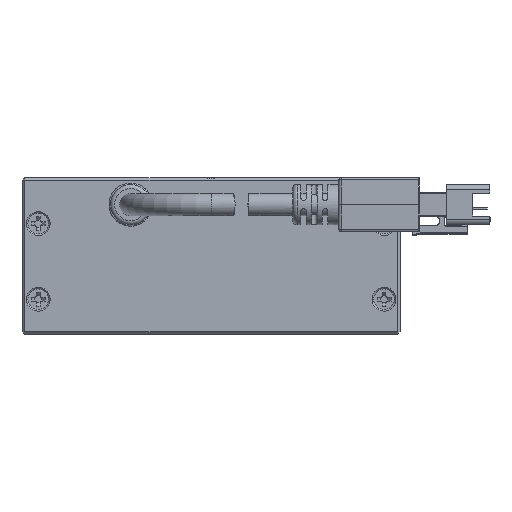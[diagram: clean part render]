
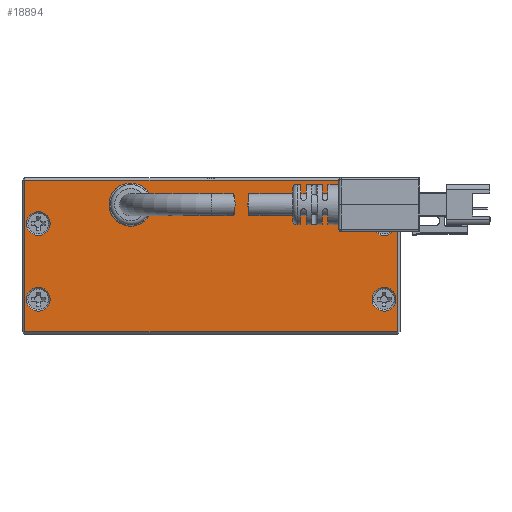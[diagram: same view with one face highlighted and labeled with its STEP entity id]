
A CAD part, front view. The second image highlights one B-rep face of the part: STEP entity #18894.
In plain terms, the highlighted planar face has unit normal (0, -1, 0).
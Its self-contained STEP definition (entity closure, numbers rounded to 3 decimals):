
#19 = DIRECTION ( 'NONE',  ( 0., -1., 0. ) ) ;
#393 = EDGE_CURVE ( 'NONE', #18391, #18391, #14986, .T. ) ;
#660 = LINE ( 'NONE', #3709, #18897 ) ;
#993 = VERTEX_POINT ( 'NONE', #5593 ) ;
#1087 = VECTOR ( 'NONE', #7385, 1000. ) ;
#1108 = VECTOR ( 'NONE', #11607, 1000. ) ;
#1175 = CIRCLE ( 'NONE', #17084, 2.8 ) ;
#1466 = FACE_BOUND ( 'NONE', #15692, .T. ) ;
#1664 = DIRECTION ( 'NONE',  ( -1., 0., 0. ) ) ;
#2200 = DIRECTION ( 'NONE',  ( 0., 0., -1. ) ) ;
#2310 = DIRECTION ( 'NONE',  ( 0., -1., 0. ) ) ;
#2739 = CARTESIAN_POINT ( 'NONE',  ( 29.8, -35., -6.5 ) ) ;
#2746 = ORIENTED_EDGE ( 'NONE', *, *, #17095, .T. ) ;
#3050 = ORIENTED_EDGE ( 'NONE', *, *, #15357, .T. ) ;
#3709 = CARTESIAN_POINT ( 'NONE',  ( -12.1, -35., -3. ) ) ;
#4143 = DIRECTION ( 'NONE',  ( -1., 0., 0. ) ) ;
#4170 = CARTESIAN_POINT ( 'NONE',  ( -12.1, -35., -3. ) ) ;
#4605 = ORIENTED_EDGE ( 'NONE', *, *, #9221, .F. ) ;
#4716 = FACE_OUTER_BOUND ( 'NONE', #19585, .T. ) ;
#4731 = AXIS2_PLACEMENT_3D ( 'NONE', #15383, #5931, #20298 ) ;
#5067 = AXIS2_PLACEMENT_3D ( 'NONE', #11191, #19, #1664 ) ;
#5593 = CARTESIAN_POINT ( 'NONE',  ( -34.5, -35., -26.5 ) ) ;
#5931 = DIRECTION ( 'NONE',  ( 0., -1., 0. ) ) ;
#6096 = DIRECTION ( 'NONE',  ( 0., 0., 1. ) ) ;
#6525 = DIRECTION ( 'NONE',  ( 1., 0., 0. ) ) ;
#6561 = CARTESIAN_POINT ( 'NONE',  ( -17.7, -35., -3. ) ) ;
#6654 = LINE ( 'NONE', #13830, #12823 ) ;
#6975 = AXIS2_PLACEMENT_3D ( 'NONE', #7039, #13385, #19476 ) ;
#7039 = CARTESIAN_POINT ( 'NONE',  ( 32., -35., -6.5 ) ) ;
#7069 = AXIS2_PLACEMENT_3D ( 'NONE', #18767, #20159, #18635 ) ;
#7144 = LINE ( 'NONE', #10280, #20168 ) ;
#7316 = VECTOR ( 'NONE', #2200, 1000. ) ;
#7385 = DIRECTION ( 'NONE',  ( 0., 0., 1. ) ) ;
#7595 = EDGE_LOOP ( 'NONE', ( #3050, #2746, #4605, #15796 ) ) ;
#8993 = VERTEX_POINT ( 'NONE', #18511 ) ;
#9074 = AXIS2_PLACEMENT_3D ( 'NONE', #10930, #10788, #14218 ) ;
#9167 = VERTEX_POINT ( 'NONE', #6561 ) ;
#9203 = EDGE_CURVE ( 'NONE', #12260, #12260, #19901, .T. ) ;
#9221 = EDGE_CURVE ( 'NONE', #10126, #17966, #660, .T. ) ;
#9678 = CIRCLE ( 'NONE', #4731, 2.2 ) ;
#9926 = ORIENTED_EDGE ( 'NONE', *, *, #12212, .F. ) ;
#10047 = DIRECTION ( 'NONE',  ( 0., 0., 1. ) ) ;
#10126 = VERTEX_POINT ( 'NONE', #4170 ) ;
#10280 = CARTESIAN_POINT ( 'NONE',  ( -35., -35., 0. ) ) ;
#10300 = LINE ( 'NONE', #13099, #1108 ) ;
#10377 = ORIENTED_EDGE ( 'NONE', *, *, #9203, .F. ) ;
#10460 = EDGE_LOOP ( 'NONE', ( #10377 ) ) ;
#10581 = PLANE ( 'NONE',  #7069 ) ;
#10631 = EDGE_CURVE ( 'NONE', #14206, #993, #14213, .T. ) ;
#10693 = FACE_BOUND ( 'NONE', #7595, .T. ) ;
#10788 = DIRECTION ( 'NONE',  ( 0., -1., 0. ) ) ;
#10930 = CARTESIAN_POINT ( 'NONE',  ( 32., -35., -20.5 ) ) ;
#10965 = ORIENTED_EDGE ( 'NONE', *, *, #393, .F. ) ;
#11082 = EDGE_CURVE ( 'NONE', #18855, #18855, #14475, .T. ) ;
#11191 = CARTESIAN_POINT ( 'NONE',  ( -32., -35., -6.5 ) ) ;
#11607 = DIRECTION ( 'NONE',  ( 1., 0., 0. ) ) ;
#11931 = ORIENTED_EDGE ( 'NONE', *, *, #11082, .F. ) ;
#12212 = EDGE_CURVE ( 'NONE', #13245, #13245, #9678, .T. ) ;
#12260 = VERTEX_POINT ( 'NONE', #2739 ) ;
#12507 = ORIENTED_EDGE ( 'NONE', *, *, #20291, .T. ) ;
#12823 = VECTOR ( 'NONE', #6096, 1000. ) ;
#12909 = CARTESIAN_POINT ( 'NONE',  ( -12.1, -35., 0. ) ) ;
#13099 = CARTESIAN_POINT ( 'NONE',  ( -35., -35., -26.5 ) ) ;
#13245 = VERTEX_POINT ( 'NONE', #18827 ) ;
#13268 = EDGE_LOOP ( 'NONE', ( #11931 ) ) ;
#13385 = DIRECTION ( 'NONE',  ( 0., -1., 0. ) ) ;
#13399 = CARTESIAN_POINT ( 'NONE',  ( -34.2, -35., -6.5 ) ) ;
#13830 = CARTESIAN_POINT ( 'NONE',  ( 34.5, -35., 0. ) ) ;
#14206 = VERTEX_POINT ( 'NONE', #16107 ) ;
#14213 = LINE ( 'NONE', #15334, #7316 ) ;
#14218 = DIRECTION ( 'NONE',  ( -1., 0., 0. ) ) ;
#14452 = ORIENTED_EDGE ( 'NONE', *, *, #17181, .T. ) ;
#14475 = CIRCLE ( 'NONE', #9074, 2.2 ) ;
#14509 = LINE ( 'NONE', #18247, #15239 ) ;
#14986 = CIRCLE ( 'NONE', #5067, 2.2 ) ;
#15239 = VECTOR ( 'NONE', #4143, 1000. ) ;
#15334 = CARTESIAN_POINT ( 'NONE',  ( -34.5, -35., 0. ) ) ;
#15357 = EDGE_CURVE ( 'NONE', #9167, #8993, #16209, .T. ) ;
#15383 = CARTESIAN_POINT ( 'NONE',  ( -32., -35., -20.5 ) ) ;
#15692 = EDGE_LOOP ( 'NONE', ( #9926 ) ) ;
#15796 = ORIENTED_EDGE ( 'NONE', *, *, #19683, .F. ) ;
#16107 = CARTESIAN_POINT ( 'NONE',  ( -34.5, -35., 1.5 ) ) ;
#16209 = LINE ( 'NONE', #16798, #1087 ) ;
#16425 = EDGE_CURVE ( 'NONE', #993, #18976, #10300, .T. ) ;
#16478 = DIRECTION ( 'NONE',  ( -1., 0., 0. ) ) ;
#16798 = CARTESIAN_POINT ( 'NONE',  ( -17.7, -35., 0. ) ) ;
#16799 = FACE_BOUND ( 'NONE', #10460, .T. ) ;
#17084 = AXIS2_PLACEMENT_3D ( 'NONE', #18035, #2310, #16478 ) ;
#17095 = EDGE_CURVE ( 'NONE', #8993, #17966, #7144, .T. ) ;
#17181 = EDGE_CURVE ( 'NONE', #18976, #19549, #6654, .T. ) ;
#17904 = CARTESIAN_POINT ( 'NONE',  ( 34.5, -35., 1.5 ) ) ;
#17966 = VERTEX_POINT ( 'NONE', #12909 ) ;
#18035 = CARTESIAN_POINT ( 'NONE',  ( -14.9, -35., -3. ) ) ;
#18247 = CARTESIAN_POINT ( 'NONE',  ( -35., -35., 1.5 ) ) ;
#18263 = ORIENTED_EDGE ( 'NONE', *, *, #10631, .T. ) ;
#18391 = VERTEX_POINT ( 'NONE', #13399 ) ;
#18511 = CARTESIAN_POINT ( 'NONE',  ( -17.7, -35., 0. ) ) ;
#18635 = DIRECTION ( 'NONE',  ( 1., 0., 0. ) ) ;
#18740 = EDGE_LOOP ( 'NONE', ( #10965 ) ) ;
#18767 = CARTESIAN_POINT ( 'NONE',  ( -35., -35., 0. ) ) ;
#18825 = CARTESIAN_POINT ( 'NONE',  ( 34.5, -35., -26.5 ) ) ;
#18827 = CARTESIAN_POINT ( 'NONE',  ( -34.2, -35., -20.5 ) ) ;
#18855 = VERTEX_POINT ( 'NONE', #20094 ) ;
#18894 = ADVANCED_FACE ( 'NONE', ( #10693, #19246, #16799, #19490, #1466, #4716 ), #10581, .F. ) ;
#18897 = VECTOR ( 'NONE', #10047, 1000. ) ;
#18976 = VERTEX_POINT ( 'NONE', #18825 ) ;
#19246 = FACE_BOUND ( 'NONE', #13268, .T. ) ;
#19279 = ORIENTED_EDGE ( 'NONE', *, *, #16425, .T. ) ;
#19476 = DIRECTION ( 'NONE',  ( -1., 0., 0. ) ) ;
#19490 = FACE_BOUND ( 'NONE', #18740, .T. ) ;
#19549 = VERTEX_POINT ( 'NONE', #17904 ) ;
#19585 = EDGE_LOOP ( 'NONE', ( #12507, #18263, #19279, #14452 ) ) ;
#19683 = EDGE_CURVE ( 'NONE', #9167, #10126, #1175, .T. ) ;
#19901 = CIRCLE ( 'NONE', #6975, 2.2 ) ;
#20094 = CARTESIAN_POINT ( 'NONE',  ( 29.8, -35., -20.5 ) ) ;
#20159 = DIRECTION ( 'NONE',  ( 0., 1., 0. ) ) ;
#20168 = VECTOR ( 'NONE', #6525, 1000. ) ;
#20291 = EDGE_CURVE ( 'NONE', #19549, #14206, #14509, .T. ) ;
#20298 = DIRECTION ( 'NONE',  ( -1., 0., 0. ) ) ;
